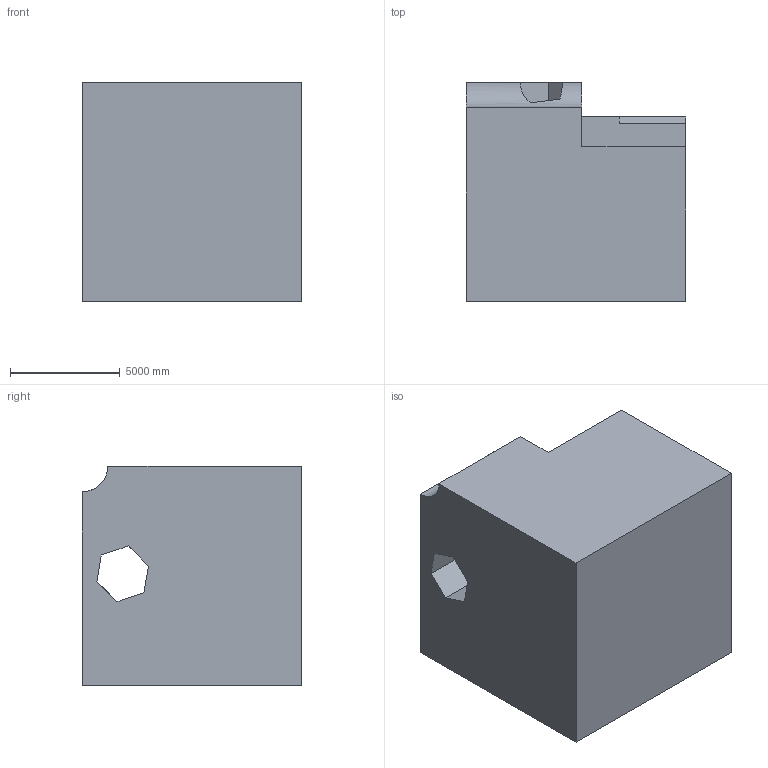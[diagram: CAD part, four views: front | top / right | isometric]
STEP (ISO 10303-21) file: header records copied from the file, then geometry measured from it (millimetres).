
FILE_DESCRIPTION (( 'STEP AP203' ), '1' );
FILE_NAME ('108.STEP', '2022-08-31T11:37:21', ( 'user' ), ( '' ), 'SwSTEP 2.0', 'SolidWorks 2021', '' );
FILE_SCHEMA (( 'CONFIG_CONTROL_DESIGN' ));
Length unit declared in the file: centimetre
Products named in the file (1): 108
Bounding box: 10000 x 10000 x 10000 mm (x, y, z)
Volume: 817097056369.2 mm3; surface area: 658036130 mm2
Topology: 1 solids, 1 shells, 29 faces, 84 edges, 56 vertices
Faces by surface type: plane 27, cylinder 2
Entity records: 1023 total; most frequent: CARTESIAN_POINT 179, ORIENTED_EDGE 168, DIRECTION 145, EDGE_CURVE 84, LINE 77, VECTOR 77, VERTEX_POINT 56, AXIS2_PLACEMENT_3D 34
